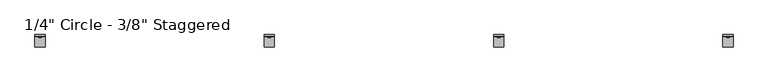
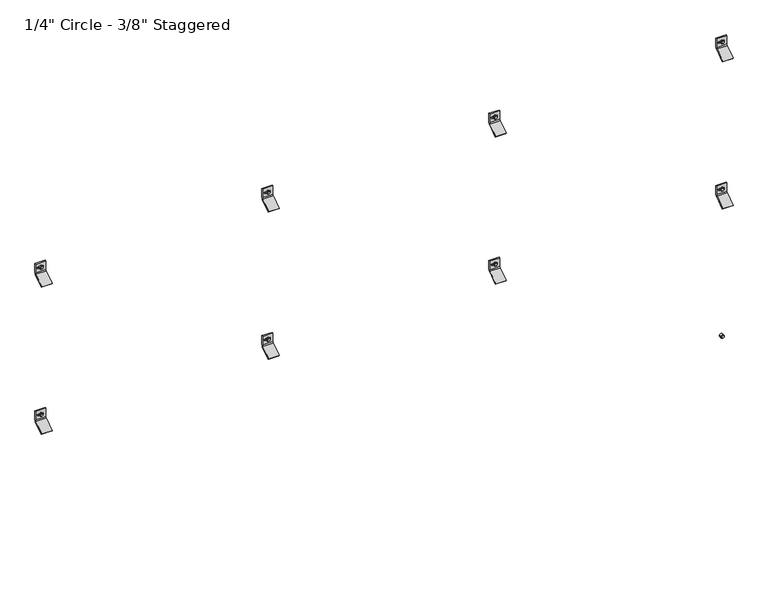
"""IFC4 building model written with IfcOpenShell, lengths in millimetres: plate geometry."""

from ifc_helpers import new_model, si_unit, point, frame, frame_2d, origin, place, context, project, spatial, polyline, circle_curve, trimmed, segment, composite_curve, outline, extrude, source, transform, mapped, element, save
from ifc_brep_helpers import plane_surface, cylinder_surface, revolved_surface, advanced_brep


def plate_326bff25(model_context):
    return source(origin(), model_context, "Body", "SolidModel", [
        extrude(outline(polyline([(1923.7554341, 1273.4858014), (1919.4097216, 1275.9947997), (1919.4097216, 1281.0127963), (1923.7554341, 1283.5217946), (1928.1011466, 1281.0127963), (1928.1011466, 1275.9947997), (1923.7554341, 1273.4858014)])), frame((0.0, -58.7607779, 0.0), z_axis=(0.0, 1.0, 0.0), x_axis=(0.0, 0.0, 1.0)), (0.0, 0.0, 1.0), 11.1357779),
        extrude(outline(composite_curve([segment(trimmed(circle_curve(frame_2d((1923.8487411, 1278.503798)), 6.35), [point((1923.8487411, 1284.853798))], [point((1923.8487411, 1272.153798))], False, "CARTESIAN"), True, "CONTINUOUS"), segment(trimmed(circle_curve(frame_2d((1923.8487411, 1278.503798)), 6.35), [point((1923.8487411, 1272.153798))], [point((1923.8487411, 1284.853798))], False, "CARTESIAN"), True, "CONTINUOUS")], self_intersect=False)), frame((0.0, -57.0817743, 0.0), z_axis=(0.0, 1.0, 0.0), x_axis=(0.0, 0.0, 1.0)), (0.0, 0.0, 1.0), 9.4567743),
        advanced_brep(
        [(1259.453798, -47.625, 1906.606122), (1259.453798, -51.2819443, 1898.9440896), (1259.453798, -89.5163624, 1872.1720618), (1259.453798, -92.9330442, 1875.5887436), (1259.453798, -54.3526876, 1902.6030001), (1259.453798, -52.4002, 1906.6061929), (1259.453798, -52.4002, 1940.7988072), (1259.453798, -47.625, 1940.7988072), (1297.553798, -47.625, 1906.606122), (1297.553798, -47.625, 1940.7988072), (1297.553798, -52.4002, 1940.7988072), (1297.553798, -52.4002, 1906.6061929), (1297.553798, -54.3526876, 1902.6030001), (1297.553798, -92.9330442, 1875.5887436), (1297.553798, -89.5163624, 1872.1720618), (1297.553798, -51.2819443, 1898.9440896), (1285.2449869, -52.4002, 1926.753591), (1285.2449869, -52.4002, 1920.403591), (1269.0171267, -52.4002, 1920.403591), (1269.0171267, -52.4002, 1926.753591), (1285.2449869, -47.625, 1920.403591), (1285.2449869, -47.625, 1926.753591), (1269.0171267, -47.625, 1926.753591), (1269.0171267, -47.625, 1920.403591)],
        [
            (0, 1, circle_curve(frame((1259.453798, -57.4802202, 1906.606122), z_axis=(-1.0, 0.0, 0.0), x_axis=(0.0, -1.0, 0.0)), 9.8552202)),
            (1, 2),
            (2, 3),
            (3, 4),
            (4, 5, circle_curve(frame((1259.453798, -57.4803246, 1906.6061929), z_axis=(1.0, 0.0, 0.0), x_axis=(0.0, -1.0, 0.0)), 5.0801246)),
            (5, 6),
            (6, 7),
            (7, 0),
            (8, 9),
            (9, 10),
            (10, 11),
            (11, 12, circle_curve(frame((1297.553798, -57.4803246, 1906.6061929), z_axis=(-1.0, 0.0, 0.0), x_axis=(0.0, -1.0, 0.0)), 5.0801246)),
            (12, 13),
            (13, 14),
            (14, 15),
            (15, 8, circle_curve(frame((1297.553798, -57.4802202, 1906.606122), z_axis=(1.0, 0.0, 0.0), x_axis=(0.0, -1.0, 0.0)), 9.8552202)),
            (4, 12),
            (11, 5),
            (10, 6),
            (16, 17, circle_curve(frame((1285.2449869, -52.4002, 1923.578591), z_axis=(0.0, 1.0, 0.0), x_axis=(0.0, 0.0, -1.0)), 3.175)),
            (17, 18),
            (18, 19, circle_curve(frame((1269.0171267, -52.4002, 1923.578591), z_axis=(0.0, 1.0, 0.0), x_axis=(0.0, 0.0, -1.0)), 3.175)),
            (19, 16),
            (9, 7),
            (8, 0),
            (20, 21, circle_curve(frame((1285.2449869, -47.625, 1923.578591), z_axis=(0.0, -1.0, 0.0), x_axis=(0.0, 0.0, -1.0)), 3.175)),
            (21, 22),
            (22, 23, circle_curve(frame((1269.0171267, -47.625, 1923.578591), z_axis=(0.0, -1.0, 0.0), x_axis=(0.0, 0.0, -1.0)), 3.175)),
            (23, 20),
            (15, 1),
            (20, 17),
            (16, 21),
            (19, 22),
            (18, 23),
            (14, 2),
            (13, 3),
        ],
        [
            plane_surface(frame((1259.453798, -67.3354404, 1906.606122), z_axis=(-1.0, 0.0, 0.0), x_axis=(0.0, 0.0, 1.0))),
            plane_surface(frame((1297.553798, -67.3354404, 1906.606122), z_axis=(1.0, 0.0, 0.0), x_axis=(0.0, 0.0, -1.0))),
            revolved_surface(polyline([(1297.553798, -62.5604492, 1906.6061929), (1259.453798, -62.5604492, 1906.6061929)]), (1297.553798, -57.4803246, 1906.6061929), (1.0, 0.0, 0.0)),
            plane_surface(frame((1259.453798, -52.4002, 1906.6061929), z_axis=(0.0, -1.0, 0.0), x_axis=(1.0, 0.0, 0.0))),
            plane_surface(frame((1259.453798, -52.4002, 1940.7988072), z_axis=(0.0, 0.0, 1.0), x_axis=(1.0, 0.0, 0.0))),
            plane_surface(frame((1259.453798, -47.625, 1940.7988072), z_axis=(0.0, 1.0, 6.99569853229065e-12), x_axis=(1.0, 0.0, 0.0))),
            cylinder_surface(frame((1297.553798, -57.4802202, 1906.606122), z_axis=(-1.0, 0.0, 0.0), x_axis=(0.0, -1.0, 0.0)), 9.8552202),
            revolved_surface(polyline([(1285.2449869, -52.4002, 1920.403591), (1285.2449869, -47.625, 1920.403591)]), (1285.2449869, -25.6669948, 1923.578591), (0.0, -1.0, 0.0)),
            plane_surface(frame((1285.2449869, -86.677982, 1926.753591), z_axis=(0.0, 0.0, -1.0), x_axis=(0.0, 1.0, 0.0))),
            revolved_surface(polyline([(1269.0171267, -52.4002, 1920.403591), (1269.0171267, -47.625, 1920.403591)]), (1269.0171267, -25.6669948, 1923.578591), (0.0, -1.0, 0.0)),
            plane_surface(frame((1269.0171267, -86.677982, 1920.403591), z_axis=(-2.7237720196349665e-11, 0.0, 1.0), x_axis=(0.0, 1.0, 0.0))),
            plane_surface(frame((1259.453798, -51.2819443, 1898.9440896), z_axis=(0.0, 0.5735764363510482, -0.8191520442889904), x_axis=(1.0, 0.0, 0.0))),
            plane_surface(frame((1259.453798, -89.5163624, 1872.1720618), z_axis=(0.0, -0.7071067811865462, -0.7071067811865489), x_axis=(1.0, 0.0, 0.0))),
            plane_surface(frame((1259.453798, -92.9330442, 1875.5887436), z_axis=(0.0, -0.5735764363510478, 0.8191520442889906), x_axis=(1.0, 0.0, 0.0))),
        ],
        [
            (0, [[1, 2, 3, 4, 5, 6, 7, 8]]),
            (1, [[9, 10, 11, 12, 13, 14, 15, 16]]),
            (2, [[-5, 17, -12, 18]]),
            (3, [[-6, -18, -11, 19], [20, 21, 22, 23]]),
            (4, [[-7, -19, -10, 24]]),
            (5, [[-8, -24, -9, 25], [26, 27, 28, 29]]),
            (6, [[-1, -25, -16, 30]]),
            (7, [[31, -20, 32, -26]]),
            (8, [[-32, -23, 33, -27]]),
            (9, [[-33, -22, 34, -28]]),
            (10, [[-31, -29, -34, -21]]),
            (11, [[-2, -30, -15, 35]]),
            (12, [[-3, -35, -14, 36]]),
            (13, [[-4, -36, -13, -17]]),
        ],
    ),
        extrude(outline(polyline([(1923.7554341, 421.1499361), (1919.4097216, 423.6589344), (1919.4097216, 428.676931), (1923.7554341, 431.1859292), (1928.1011466, 428.676931), (1928.1011466, 423.6589344), (1923.7554341, 421.1499361)])), frame((0.0, -58.7607779, 0.0), z_axis=(0.0, 1.0, 0.0), x_axis=(0.0, 0.0, 1.0)), (0.0, 0.0, 1.0), 11.1357779),
        extrude(outline(composite_curve([segment(trimmed(circle_curve(frame_2d((1923.8487411, 426.1679327)), 6.35), [point((1923.8487411, 432.5179327))], [point((1923.8487411, 419.8179327))], False, "CARTESIAN"), True, "CONTINUOUS"), segment(trimmed(circle_curve(frame_2d((1923.8487411, 426.1679327)), 6.35), [point((1923.8487411, 419.8179327))], [point((1923.8487411, 432.5179327))], False, "CARTESIAN"), True, "CONTINUOUS")], self_intersect=False)), frame((0.0, -57.0817743, 0.0), z_axis=(0.0, 1.0, 0.0), x_axis=(0.0, 0.0, 1.0)), (0.0, 0.0, 1.0), 9.4567743),
        advanced_brep(
        [(407.1179327, -47.625, 1906.606122), (407.1179327, -51.2819443, 1898.9440896), (407.1179327, -89.5163624, 1872.1720618), (407.1179327, -92.9330442, 1875.5887436), (407.1179327, -54.3526876, 1902.6030001), (407.1179327, -52.4002, 1906.6061929), (407.1179327, -52.4002, 1940.7988072), (407.1179327, -47.625, 1940.7988072), (445.2179327, -47.625, 1906.606122), (445.2179327, -47.625, 1940.7988072), (445.2179327, -52.4002, 1940.7988072), (445.2179327, -52.4002, 1906.6061929), (445.2179327, -54.3526876, 1902.6030001), (445.2179327, -92.9330442, 1875.5887436), (445.2179327, -89.5163624, 1872.1720618), (445.2179327, -51.2819443, 1898.9440896), (432.9091216, -52.4002, 1926.753591), (432.9091216, -52.4002, 1920.403591), (416.6812614, -52.4002, 1920.403591), (416.6812614, -52.4002, 1926.753591), (432.9091216, -47.625, 1920.403591), (432.9091216, -47.625, 1926.753591), (416.6812614, -47.625, 1926.753591), (416.6812614, -47.625, 1920.403591)],
        [
            (0, 1, circle_curve(frame((407.1179327, -57.4802202, 1906.606122), z_axis=(-1.0, 0.0, 0.0), x_axis=(0.0, -1.0, 0.0)), 9.8552202)),
            (1, 2),
            (2, 3),
            (3, 4),
            (4, 5, circle_curve(frame((407.1179327, -57.4803246, 1906.6061929), z_axis=(1.0, 0.0, 0.0), x_axis=(0.0, -1.0, 0.0)), 5.0801246)),
            (5, 6),
            (6, 7),
            (7, 0),
            (8, 9),
            (9, 10),
            (10, 11),
            (11, 12, circle_curve(frame((445.2179327, -57.4803246, 1906.6061929), z_axis=(-1.0, 0.0, 0.0), x_axis=(0.0, -1.0, 0.0)), 5.0801246)),
            (12, 13),
            (13, 14),
            (14, 15),
            (15, 8, circle_curve(frame((445.2179327, -57.4802202, 1906.606122), z_axis=(1.0, 0.0, 0.0), x_axis=(0.0, -1.0, 0.0)), 9.8552202)),
            (4, 12),
            (11, 5),
            (10, 6),
            (16, 17, circle_curve(frame((432.9091216, -52.4002, 1923.578591), z_axis=(0.0, 1.0, 0.0), x_axis=(0.0, 0.0, -1.0)), 3.175)),
            (17, 18),
            (18, 19, circle_curve(frame((416.6812614, -52.4002, 1923.578591), z_axis=(0.0, 1.0, 0.0), x_axis=(0.0, 0.0, -1.0)), 3.175)),
            (19, 16),
            (9, 7),
            (8, 0),
            (20, 21, circle_curve(frame((432.9091216, -47.625, 1923.578591), z_axis=(0.0, -1.0, 0.0), x_axis=(0.0, 0.0, -1.0)), 3.175)),
            (21, 22),
            (22, 23, circle_curve(frame((416.6812614, -47.625, 1923.578591), z_axis=(0.0, -1.0, 0.0), x_axis=(0.0, 0.0, -1.0)), 3.175)),
            (23, 20),
            (15, 1),
            (20, 17),
            (16, 21),
            (19, 22),
            (18, 23),
            (14, 2),
            (13, 3),
        ],
        [
            plane_surface(frame((407.1179327, -67.3354404, 1906.606122), z_axis=(-1.0, 0.0, 0.0), x_axis=(0.0, 0.0, 1.0))),
            plane_surface(frame((445.2179327, -67.3354404, 1906.606122), z_axis=(1.0, 0.0, 0.0), x_axis=(0.0, 0.0, -1.0))),
            revolved_surface(polyline([(445.2179327, -62.5604492, 1906.6061929), (407.1179327, -62.5604492, 1906.6061929)]), (445.2179327, -57.4803246, 1906.6061929), (1.0, 0.0, 0.0)),
            plane_surface(frame((407.1179327, -52.4002, 1906.6061929), z_axis=(0.0, -1.0, 0.0), x_axis=(1.0, 0.0, 0.0))),
            plane_surface(frame((407.1179327, -52.4002, 1940.7988072), z_axis=(0.0, 0.0, 1.0), x_axis=(1.0, 0.0, 0.0))),
            plane_surface(frame((407.1179327, -47.625, 1940.7988072), z_axis=(0.0, 1.0, 6.99569853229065e-12), x_axis=(1.0, 0.0, 0.0))),
            cylinder_surface(frame((445.2179327, -57.4802202, 1906.606122), z_axis=(-1.0, 0.0, 0.0), x_axis=(0.0, -1.0, 0.0)), 9.8552202),
            revolved_surface(polyline([(432.9091216, -52.4002, 1920.403591), (432.9091216, -47.625, 1920.403591)]), (432.9091216, -25.6669948, 1923.578591), (0.0, -1.0, 0.0)),
            plane_surface(frame((432.9091216, -86.677982, 1926.753591), z_axis=(0.0, 0.0, -1.0), x_axis=(0.0, 1.0, 0.0))),
            revolved_surface(polyline([(416.6812614, -52.4002, 1920.403591), (416.6812614, -47.625, 1920.403591)]), (416.6812614, -25.6669948, 1923.578591), (0.0, -1.0, 0.0)),
            plane_surface(frame((416.6812614, -86.677982, 1920.403591), z_axis=(-2.7237720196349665e-11, 0.0, 1.0), x_axis=(0.0, 1.0, 0.0))),
            plane_surface(frame((407.1179327, -51.2819443, 1898.9440896), z_axis=(0.0, 0.5735764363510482, -0.8191520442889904), x_axis=(1.0, 0.0, 0.0))),
            plane_surface(frame((407.1179327, -89.5163624, 1872.1720618), z_axis=(0.0, -0.7071067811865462, -0.7071067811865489), x_axis=(1.0, 0.0, 0.0))),
            plane_surface(frame((407.1179327, -92.9330442, 1875.5887436), z_axis=(0.0, -0.5735764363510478, 0.8191520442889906), x_axis=(1.0, 0.0, 0.0))),
        ],
        [
            (0, [[1, 2, 3, 4, 5, 6, 7, 8]]),
            (1, [[9, 10, 11, 12, 13, 14, 15, 16]]),
            (2, [[-5, 17, -12, 18]]),
            (3, [[-6, -18, -11, 19], [20, 21, 22, 23]]),
            (4, [[-7, -19, -10, 24]]),
            (5, [[-8, -24, -9, 25], [26, 27, 28, 29]]),
            (6, [[-1, -25, -16, 30]]),
            (7, [[31, -20, 32, -26]]),
            (8, [[-32, -23, 33, -27]]),
            (9, [[-33, -22, 34, -28]]),
            (10, [[-31, -29, -34, -21]]),
            (11, [[-2, -30, -15, 35]]),
            (12, [[-3, -35, -14, 36]]),
            (13, [[-4, -36, -13, -17]]),
        ],
    ),
        extrude(outline(polyline([(1923.7554341, -431.1859292), (1919.4097216, -428.676931), (1919.4097216, -423.6589344), (1923.7554341, -421.1499361), (1928.1011466, -423.6589344), (1928.1011466, -428.676931), (1923.7554341, -431.1859292)])), frame((0.0, -58.7607779, 0.0), z_axis=(0.0, 1.0, 0.0), x_axis=(0.0, 0.0, 1.0)), (0.0, 0.0, 1.0), 11.1357779),
        extrude(outline(composite_curve([segment(trimmed(circle_curve(frame_2d((1923.8487411, -426.1679327)), 6.35), [point((1923.8487411, -419.8179327))], [point((1923.8487411, -432.5179327))], False, "CARTESIAN"), True, "CONTINUOUS"), segment(trimmed(circle_curve(frame_2d((1923.8487411, -426.1679327)), 6.35), [point((1923.8487411, -432.5179327))], [point((1923.8487411, -419.8179327))], False, "CARTESIAN"), True, "CONTINUOUS")], self_intersect=False)), frame((0.0, -57.0817743, 0.0), z_axis=(0.0, 1.0, 0.0), x_axis=(0.0, 0.0, 1.0)), (0.0, 0.0, 1.0), 9.4567743),
        advanced_brep(
        [(-445.2179327, -47.625, 1906.606122), (-445.2179327, -51.2819443, 1898.9440896), (-445.2179327, -89.5163624, 1872.1720618), (-445.2179327, -92.9330442, 1875.5887436), (-445.2179327, -54.3526876, 1902.6030001), (-445.2179327, -52.4002, 1906.6061929), (-445.2179327, -52.4002, 1940.7988072), (-445.2179327, -47.625, 1940.7988072), (-407.1179327, -47.625, 1906.606122), (-407.1179327, -47.625, 1940.7988072), (-407.1179327, -52.4002, 1940.7988072), (-407.1179327, -52.4002, 1906.6061929), (-407.1179327, -54.3526876, 1902.6030001), (-407.1179327, -92.9330442, 1875.5887436), (-407.1179327, -89.5163624, 1872.1720618), (-407.1179327, -51.2819443, 1898.9440896), (-419.4267438, -52.4002, 1926.753591), (-419.4267438, -52.4002, 1920.403591), (-435.654604, -52.4002, 1920.403591), (-435.654604, -52.4002, 1926.753591), (-419.4267438, -47.625, 1920.403591), (-419.4267438, -47.625, 1926.753591), (-435.654604, -47.625, 1926.753591), (-435.654604, -47.625, 1920.403591)],
        [
            (0, 1, circle_curve(frame((-445.2179327, -57.4802202, 1906.606122), z_axis=(-1.0, 0.0, 0.0), x_axis=(0.0, -1.0, 0.0)), 9.8552202)),
            (1, 2),
            (2, 3),
            (3, 4),
            (4, 5, circle_curve(frame((-445.2179327, -57.4803246, 1906.6061929), z_axis=(1.0, 0.0, 0.0), x_axis=(0.0, -1.0, 0.0)), 5.0801246)),
            (5, 6),
            (6, 7),
            (7, 0),
            (8, 9),
            (9, 10),
            (10, 11),
            (11, 12, circle_curve(frame((-407.1179327, -57.4803246, 1906.6061929), z_axis=(-1.0, 0.0, 0.0), x_axis=(0.0, -1.0, 0.0)), 5.0801246)),
            (12, 13),
            (13, 14),
            (14, 15),
            (15, 8, circle_curve(frame((-407.1179327, -57.4802202, 1906.606122), z_axis=(1.0, 0.0, 0.0), x_axis=(0.0, -1.0, 0.0)), 9.8552202)),
            (4, 12),
            (11, 5),
            (10, 6),
            (16, 17, circle_curve(frame((-419.4267438, -52.4002, 1923.578591), z_axis=(0.0, 1.0, 0.0), x_axis=(0.0, 0.0, -1.0)), 3.175)),
            (17, 18),
            (18, 19, circle_curve(frame((-435.654604, -52.4002, 1923.578591), z_axis=(0.0, 1.0, 0.0), x_axis=(0.0, 0.0, -1.0)), 3.175)),
            (19, 16),
            (9, 7),
            (8, 0),
            (20, 21, circle_curve(frame((-419.4267438, -47.625, 1923.578591), z_axis=(0.0, -1.0, 0.0), x_axis=(0.0, 0.0, -1.0)), 3.175)),
            (21, 22),
            (22, 23, circle_curve(frame((-435.654604, -47.625, 1923.578591), z_axis=(0.0, -1.0, 0.0), x_axis=(0.0, 0.0, -1.0)), 3.175)),
            (23, 20),
            (15, 1),
            (20, 17),
            (16, 21),
            (19, 22),
            (18, 23),
            (14, 2),
            (13, 3),
        ],
        [
            plane_surface(frame((-445.2179327, -67.3354404, 1906.606122), z_axis=(-1.0, 0.0, 0.0), x_axis=(0.0, 0.0, 1.0))),
            plane_surface(frame((-407.1179327, -67.3354404, 1906.606122), z_axis=(1.0, 0.0, 0.0), x_axis=(0.0, 0.0, -1.0))),
            revolved_surface(polyline([(-407.1179327, -62.5604492, 1906.6061929), (-445.2179327, -62.5604492, 1906.6061929)]), (-407.1179327, -57.4803246, 1906.6061929), (1.0, 0.0, 0.0)),
            plane_surface(frame((-445.2179327, -52.4002, 1906.6061929), z_axis=(0.0, -1.0, 0.0), x_axis=(1.0, 0.0, 0.0))),
            plane_surface(frame((-445.2179327, -52.4002, 1940.7988072), z_axis=(0.0, 0.0, 1.0), x_axis=(1.0, 0.0, 0.0))),
            plane_surface(frame((-445.2179327, -47.625, 1940.7988072), z_axis=(0.0, 1.0, 6.99569853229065e-12), x_axis=(1.0, 0.0, 0.0))),
            cylinder_surface(frame((-407.1179327, -57.4802202, 1906.606122), z_axis=(-1.0, 0.0, 0.0), x_axis=(0.0, -1.0, 0.0)), 9.8552202),
            revolved_surface(polyline([(-419.4267438, -52.4002, 1920.403591), (-419.4267438, -47.625, 1920.403591)]), (-419.4267438, -25.6669948, 1923.578591), (0.0, -1.0, 0.0)),
            plane_surface(frame((-419.4267438, -86.677982, 1926.753591), z_axis=(0.0, 0.0, -1.0), x_axis=(0.0, 1.0, 0.0))),
            revolved_surface(polyline([(-435.654604, -52.4002, 1920.403591), (-435.654604, -47.625, 1920.403591)]), (-435.654604, -25.6669948, 1923.578591), (0.0, -1.0, 0.0)),
            plane_surface(frame((-435.654604, -86.677982, 1920.403591), z_axis=(-2.7237720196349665e-11, 0.0, 1.0), x_axis=(0.0, 1.0, 0.0))),
            plane_surface(frame((-445.2179327, -51.2819443, 1898.9440896), z_axis=(0.0, 0.5735764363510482, -0.8191520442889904), x_axis=(1.0, 0.0, 0.0))),
            plane_surface(frame((-445.2179327, -89.5163624, 1872.1720618), z_axis=(0.0, -0.7071067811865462, -0.7071067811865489), x_axis=(1.0, 0.0, 0.0))),
            plane_surface(frame((-445.2179327, -92.9330442, 1875.5887436), z_axis=(0.0, -0.5735764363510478, 0.8191520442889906), x_axis=(1.0, 0.0, 0.0))),
        ],
        [
            (0, [[1, 2, 3, 4, 5, 6, 7, 8]]),
            (1, [[9, 10, 11, 12, 13, 14, 15, 16]]),
            (2, [[-5, 17, -12, 18]]),
            (3, [[-6, -18, -11, 19], [20, 21, 22, 23]]),
            (4, [[-7, -19, -10, 24]]),
            (5, [[-8, -24, -9, 25], [26, 27, 28, 29]]),
            (6, [[-1, -25, -16, 30]]),
            (7, [[31, -20, 32, -26]]),
            (8, [[-32, -23, 33, -27]]),
            (9, [[-33, -22, 34, -28]]),
            (10, [[-31, -29, -34, -21]]),
            (11, [[-2, -30, -15, 35]]),
            (12, [[-3, -35, -14, 36]]),
            (13, [[-4, -36, -13, -17]]),
        ],
    ),
        extrude(outline(polyline([(1923.7554341, -1283.5217946), (1919.4097216, -1281.0127963), (1919.4097216, -1275.9947997), (1923.7554341, -1273.4858014), (1928.1011466, -1275.9947997), (1928.1011466, -1281.0127963), (1923.7554341, -1283.5217946)])), frame((0.0, -58.7607779, 0.0), z_axis=(0.0, 1.0, 0.0), x_axis=(0.0, 0.0, 1.0)), (0.0, 0.0, 1.0), 11.1357779),
        extrude(outline(composite_curve([segment(trimmed(circle_curve(frame_2d((1923.8487411, -1278.503798)), 6.35), [point((1923.8487411, -1272.153798))], [point((1923.8487411, -1284.853798))], False, "CARTESIAN"), True, "CONTINUOUS"), segment(trimmed(circle_curve(frame_2d((1923.8487411, -1278.503798)), 6.35), [point((1923.8487411, -1284.853798))], [point((1923.8487411, -1272.153798))], False, "CARTESIAN"), True, "CONTINUOUS")], self_intersect=False)), frame((0.0, -57.0817743, 0.0), z_axis=(0.0, 1.0, 0.0), x_axis=(0.0, 0.0, 1.0)), (0.0, 0.0, 1.0), 9.4567743),
        advanced_brep(
        [(-1297.553798, -47.625, 1906.606122), (-1297.553798, -51.2819443, 1898.9440896), (-1297.553798, -89.5163624, 1872.1720618), (-1297.553798, -92.9330442, 1875.5887436), (-1297.553798, -54.3526876, 1902.6030001), (-1297.553798, -52.4002, 1906.6061929), (-1297.553798, -52.4002, 1940.7988072), (-1297.553798, -47.625, 1940.7988072), (-1259.453798, -47.625, 1906.606122), (-1259.453798, -47.625, 1940.7988072), (-1259.453798, -52.4002, 1940.7988072), (-1259.453798, -52.4002, 1906.6061929), (-1259.453798, -54.3526876, 1902.6030001), (-1259.453798, -92.9330442, 1875.5887436), (-1259.453798, -89.5163624, 1872.1720618), (-1259.453798, -51.2819443, 1898.9440896), (-1271.7626091, -52.4002, 1926.753591), (-1271.7626091, -52.4002, 1920.403591), (-1287.9904693, -52.4002, 1920.403591), (-1287.9904693, -52.4002, 1926.753591), (-1271.7626091, -47.625, 1920.403591), (-1271.7626091, -47.625, 1926.753591), (-1287.9904693, -47.625, 1926.753591), (-1287.9904693, -47.625, 1920.403591)],
        [
            (0, 1, circle_curve(frame((-1297.553798, -57.4802202, 1906.606122), z_axis=(-1.0, 0.0, 0.0), x_axis=(0.0, -1.0, 0.0)), 9.8552202)),
            (1, 2),
            (2, 3),
            (3, 4),
            (4, 5, circle_curve(frame((-1297.553798, -57.4803246, 1906.6061929), z_axis=(1.0, 0.0, 0.0), x_axis=(0.0, -1.0, 0.0)), 5.0801246)),
            (5, 6),
            (6, 7),
            (7, 0),
            (8, 9),
            (9, 10),
            (10, 11),
            (11, 12, circle_curve(frame((-1259.453798, -57.4803246, 1906.6061929), z_axis=(-1.0, 0.0, 0.0), x_axis=(0.0, -1.0, 0.0)), 5.0801246)),
            (12, 13),
            (13, 14),
            (14, 15),
            (15, 8, circle_curve(frame((-1259.453798, -57.4802202, 1906.606122), z_axis=(1.0, 0.0, 0.0), x_axis=(0.0, -1.0, 0.0)), 9.8552202)),
            (4, 12),
            (11, 5),
            (10, 6),
            (16, 17, circle_curve(frame((-1271.7626091, -52.4002, 1923.578591), z_axis=(0.0, 1.0, 0.0), x_axis=(0.0, 0.0, -1.0)), 3.175)),
            (17, 18),
            (18, 19, circle_curve(frame((-1287.9904693, -52.4002, 1923.578591), z_axis=(0.0, 1.0, 0.0), x_axis=(0.0, 0.0, -1.0)), 3.175)),
            (19, 16),
            (9, 7),
            (8, 0),
            (20, 21, circle_curve(frame((-1271.7626091, -47.625, 1923.578591), z_axis=(0.0, -1.0, 0.0), x_axis=(0.0, 0.0, -1.0)), 3.175)),
            (21, 22),
            (22, 23, circle_curve(frame((-1287.9904693, -47.625, 1923.578591), z_axis=(0.0, -1.0, 0.0), x_axis=(0.0, 0.0, -1.0)), 3.175)),
            (23, 20),
            (15, 1),
            (20, 17),
            (16, 21),
            (19, 22),
            (18, 23),
            (14, 2),
            (13, 3),
        ],
        [
            plane_surface(frame((-1297.553798, -67.3354404, 1906.606122), z_axis=(-1.0, 0.0, 0.0), x_axis=(0.0, 0.0, 1.0))),
            plane_surface(frame((-1259.453798, -67.3354404, 1906.606122), z_axis=(1.0, 0.0, 0.0), x_axis=(0.0, 0.0, -1.0))),
            revolved_surface(polyline([(-1259.453798, -62.5604492, 1906.6061929), (-1297.553798, -62.5604492, 1906.6061929)]), (-1259.453798, -57.4803246, 1906.6061929), (1.0, 0.0, 0.0)),
            plane_surface(frame((-1297.553798, -52.4002, 1906.6061929), z_axis=(0.0, -1.0, 0.0), x_axis=(1.0, 0.0, 0.0))),
            plane_surface(frame((-1297.553798, -52.4002, 1940.7988072), z_axis=(0.0, 0.0, 1.0), x_axis=(1.0, 0.0, 0.0))),
            plane_surface(frame((-1297.553798, -47.625, 1940.7988072), z_axis=(0.0, 1.0, 6.99569853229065e-12), x_axis=(1.0, 0.0, 0.0))),
            cylinder_surface(frame((-1259.453798, -57.4802202, 1906.606122), z_axis=(-1.0, 0.0, 0.0), x_axis=(0.0, -1.0, 0.0)), 9.8552202),
            revolved_surface(polyline([(-1271.7626091, -52.4002, 1920.403591), (-1271.7626091, -47.625, 1920.403591)]), (-1271.7626091, -25.6669948, 1923.578591), (0.0, -1.0, 0.0)),
            plane_surface(frame((-1271.7626091, -86.677982, 1926.753591), z_axis=(0.0, 0.0, -1.0), x_axis=(0.0, 1.0, 0.0))),
            revolved_surface(polyline([(-1287.9904693, -52.4002, 1920.403591), (-1287.9904693, -47.625, 1920.403591)]), (-1287.9904693, -25.6669948, 1923.578591), (0.0, -1.0, 0.0)),
            plane_surface(frame((-1287.9904693, -86.677982, 1920.403591), z_axis=(-2.7237720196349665e-11, 0.0, 1.0), x_axis=(0.0, 1.0, 0.0))),
            plane_surface(frame((-1297.553798, -51.2819443, 1898.9440896), z_axis=(0.0, 0.5735764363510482, -0.8191520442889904), x_axis=(1.0, 0.0, 0.0))),
            plane_surface(frame((-1297.553798, -89.5163624, 1872.1720618), z_axis=(0.0, -0.7071067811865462, -0.7071067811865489), x_axis=(1.0, 0.0, 0.0))),
            plane_surface(frame((-1297.553798, -92.9330442, 1875.5887436), z_axis=(0.0, -0.5735764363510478, 0.8191520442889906), x_axis=(1.0, 0.0, 0.0))),
        ],
        [
            (0, [[1, 2, 3, 4, 5, 6, 7, 8]]),
            (1, [[9, 10, 11, 12, 13, 14, 15, 16]]),
            (2, [[-5, 17, -12, 18]]),
            (3, [[-6, -18, -11, 19], [20, 21, 22, 23]]),
            (4, [[-7, -19, -10, 24]]),
            (5, [[-8, -24, -9, 25], [26, 27, 28, 29]]),
            (6, [[-1, -25, -16, 30]]),
            (7, [[31, -20, 32, -26]]),
            (8, [[-32, -23, 33, -27]]),
            (9, [[-33, -22, 34, -28]]),
            (10, [[-31, -29, -34, -21]]),
            (11, [[-2, -30, -15, 35]]),
            (12, [[-3, -35, -14, 36]]),
            (13, [[-4, -36, -13, -17]]),
        ],
    ),
        extrude(outline(polyline([(1339.1301335, 1273.4858014), (1334.784421, 1275.9947997), (1334.784421, 1281.0127963), (1339.1301335, 1283.5217946), (1343.475846, 1281.0127963), (1343.475846, 1275.9947997), (1339.1301335, 1273.4858014)])), frame((0.0, -58.7607779, 0.0), z_axis=(0.0, 1.0, 0.0), x_axis=(0.0, 0.0, 1.0)), (0.0, 0.0, 1.0), 11.1357779),
        extrude(outline(composite_curve([segment(trimmed(circle_curve(frame_2d((1339.2234405, 1278.503798)), 6.35), [point((1339.2234405, 1284.853798))], [point((1339.2234405, 1272.153798))], False, "CARTESIAN"), True, "CONTINUOUS"), segment(trimmed(circle_curve(frame_2d((1339.2234405, 1278.503798)), 6.35), [point((1339.2234405, 1272.153798))], [point((1339.2234405, 1284.853798))], False, "CARTESIAN"), True, "CONTINUOUS")], self_intersect=False)), frame((0.0, -57.0817743, 0.0), z_axis=(0.0, 1.0, 0.0), x_axis=(0.0, 0.0, 1.0)), (0.0, 0.0, 1.0), 9.4567743),
        advanced_brep(
        [(1259.453798, -47.625, 1321.9808214), (1259.453798, -51.2819443, 1314.318789), (1259.453798, -89.5163624, 1287.5467612), (1259.453798, -92.9330442, 1290.963443), (1259.453798, -54.3526876, 1317.9776995), (1259.453798, -52.4002, 1321.9808923), (1259.453798, -52.4002, 1356.1735066), (1259.453798, -47.625, 1356.1735066), (1297.553798, -47.625, 1321.9808214), (1297.553798, -47.625, 1356.1735066), (1297.553798, -52.4002, 1356.1735066), (1297.553798, -52.4002, 1321.9808923), (1297.553798, -54.3526876, 1317.9776995), (1297.553798, -92.9330442, 1290.963443), (1297.553798, -89.5163624, 1287.5467612), (1297.553798, -51.2819443, 1314.318789), (1285.2449869, -52.4002, 1342.1282903), (1285.2449869, -52.4002, 1335.7782903), (1269.0171267, -52.4002, 1335.7782903), (1269.0171267, -52.4002, 1342.1282903), (1285.2449869, -47.625, 1335.7782903), (1285.2449869, -47.625, 1342.1282903), (1269.0171267, -47.625, 1342.1282903), (1269.0171267, -47.625, 1335.7782903)],
        [
            (0, 1, circle_curve(frame((1259.453798, -57.4802202, 1321.9808214), z_axis=(-1.0, 0.0, 0.0), x_axis=(0.0, -1.0, 0.0)), 9.8552202)),
            (1, 2),
            (2, 3),
            (3, 4),
            (4, 5, circle_curve(frame((1259.453798, -57.4803246, 1321.9808923), z_axis=(1.0, 0.0, 0.0), x_axis=(0.0, -1.0, 0.0)), 5.0801246)),
            (5, 6),
            (6, 7),
            (7, 0),
            (8, 9),
            (9, 10),
            (10, 11),
            (11, 12, circle_curve(frame((1297.553798, -57.4803246, 1321.9808923), z_axis=(-1.0, 0.0, 0.0), x_axis=(0.0, -1.0, 0.0)), 5.0801246)),
            (12, 13),
            (13, 14),
            (14, 15),
            (15, 8, circle_curve(frame((1297.553798, -57.4802202, 1321.9808214), z_axis=(1.0, 0.0, 0.0), x_axis=(0.0, -1.0, 0.0)), 9.8552202)),
            (4, 12),
            (11, 5),
            (10, 6),
            (16, 17, circle_curve(frame((1285.2449869, -52.4002, 1338.9532903), z_axis=(0.0, 1.0, 0.0), x_axis=(0.0, 0.0, -1.0)), 3.175)),
            (17, 18),
            (18, 19, circle_curve(frame((1269.0171267, -52.4002, 1338.9532903), z_axis=(0.0, 1.0, 0.0), x_axis=(0.0, 0.0, -1.0)), 3.175)),
            (19, 16),
            (9, 7),
            (8, 0),
            (20, 21, circle_curve(frame((1285.2449869, -47.625, 1338.9532903), z_axis=(0.0, -1.0, 0.0), x_axis=(0.0, 0.0, -1.0)), 3.175)),
            (21, 22),
            (22, 23, circle_curve(frame((1269.0171267, -47.625, 1338.9532903), z_axis=(0.0, -1.0, 0.0), x_axis=(0.0, 0.0, -1.0)), 3.175)),
            (23, 20),
            (15, 1),
            (20, 17),
            (16, 21),
            (19, 22),
            (18, 23),
            (14, 2),
            (13, 3),
        ],
        [
            plane_surface(frame((1259.453798, -67.3354404, 1321.9808214), z_axis=(-1.0, 0.0, 0.0), x_axis=(0.0, 0.0, 1.0))),
            plane_surface(frame((1297.553798, -67.3354404, 1321.9808214), z_axis=(1.0, 0.0, 0.0), x_axis=(0.0, 0.0, -1.0))),
            revolved_surface(polyline([(1297.553798, -62.5604492, 1321.9808923), (1259.453798, -62.5604492, 1321.9808923)]), (1297.553798, -57.4803246, 1321.9808923), (1.0, 0.0, 0.0)),
            plane_surface(frame((1259.453798, -52.4002, 1321.9808923), z_axis=(0.0, -1.0, 0.0), x_axis=(1.0, 0.0, 0.0))),
            plane_surface(frame((1259.453798, -52.4002, 1356.1735066), z_axis=(0.0, 0.0, 1.0), x_axis=(1.0, 0.0, 0.0))),
            plane_surface(frame((1259.453798, -47.625, 1356.1735066), z_axis=(0.0, 1.0, 6.99569853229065e-12), x_axis=(1.0, 0.0, 0.0))),
            cylinder_surface(frame((1297.553798, -57.4802202, 1321.9808214), z_axis=(-1.0, 0.0, 0.0), x_axis=(0.0, -1.0, 0.0)), 9.8552202),
            revolved_surface(polyline([(1285.2449869, -52.4002, 1335.7782903), (1285.2449869, -47.625, 1335.7782903)]), (1285.2449869, -25.6669948, 1338.9532903), (0.0, -1.0, 0.0)),
            plane_surface(frame((1285.2449869, -86.677982, 1342.1282903), z_axis=(0.0, 0.0, -1.0), x_axis=(0.0, 1.0, 0.0))),
            revolved_surface(polyline([(1269.0171267, -52.4002, 1335.7782903), (1269.0171267, -47.625, 1335.7782903)]), (1269.0171267, -25.6669948, 1338.9532903), (0.0, -1.0, 0.0)),
            plane_surface(frame((1269.0171267, -86.677982, 1335.7782903), z_axis=(-2.7237766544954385e-11, 0.0, 1.0), x_axis=(0.0, 1.0, 0.0))),
            plane_surface(frame((1259.453798, -51.2819443, 1314.318789), z_axis=(0.0, 0.5735764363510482, -0.8191520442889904), x_axis=(1.0, 0.0, 0.0))),
            plane_surface(frame((1259.453798, -89.5163624, 1287.5467612), z_axis=(0.0, -0.7071067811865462, -0.7071067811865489), x_axis=(1.0, 0.0, 0.0))),
            plane_surface(frame((1259.453798, -92.9330442, 1290.963443), z_axis=(0.0, -0.5735764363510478, 0.8191520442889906), x_axis=(1.0, 0.0, 0.0))),
        ],
        [
            (0, [[1, 2, 3, 4, 5, 6, 7, 8]]),
            (1, [[9, 10, 11, 12, 13, 14, 15, 16]]),
            (2, [[-5, 17, -12, 18]]),
            (3, [[-6, -18, -11, 19], [20, 21, 22, 23]]),
            (4, [[-7, -19, -10, 24]]),
            (5, [[-8, -24, -9, 25], [26, 27, 28, 29]]),
            (6, [[-1, -25, -16, 30]]),
            (7, [[31, -20, 32, -26]]),
            (8, [[-32, -23, 33, -27]]),
            (9, [[-33, -22, 34, -28]]),
            (10, [[-31, -29, -34, -21]]),
            (11, [[-2, -30, -15, 35]]),
            (12, [[-3, -35, -14, 36]]),
            (13, [[-4, -36, -13, -17]]),
        ],
    ),
        extrude(outline(polyline([(1339.1301335, 421.1499361), (1334.784421, 423.6589344), (1334.784421, 428.676931), (1339.1301335, 431.1859292), (1343.475846, 428.676931), (1343.475846, 423.6589344), (1339.1301335, 421.1499361)])), frame((0.0, -58.7607779, 0.0), z_axis=(0.0, 1.0, 0.0), x_axis=(0.0, 0.0, 1.0)), (0.0, 0.0, 1.0), 11.1357779),
        extrude(outline(composite_curve([segment(trimmed(circle_curve(frame_2d((1339.2234405, 426.1679327)), 6.35), [point((1339.2234405, 432.5179327))], [point((1339.2234405, 419.8179327))], False, "CARTESIAN"), True, "CONTINUOUS"), segment(trimmed(circle_curve(frame_2d((1339.2234405, 426.1679327)), 6.35), [point((1339.2234405, 419.8179327))], [point((1339.2234405, 432.5179327))], False, "CARTESIAN"), True, "CONTINUOUS")], self_intersect=False)), frame((0.0, -57.0817743, 0.0), z_axis=(0.0, 1.0, 0.0), x_axis=(0.0, 0.0, 1.0)), (0.0, 0.0, 1.0), 9.4567743),
        advanced_brep(
        [(407.1179327, -47.625, 1321.9808214), (407.1179327, -51.2819443, 1314.318789), (407.1179327, -89.5163624, 1287.5467612), (407.1179327, -92.9330442, 1290.963443), (407.1179327, -54.3526876, 1317.9776995), (407.1179327, -52.4002, 1321.9808923), (407.1179327, -52.4002, 1356.1735066), (407.1179327, -47.625, 1356.1735066), (445.2179327, -47.625, 1321.9808214), (445.2179327, -47.625, 1356.1735066), (445.2179327, -52.4002, 1356.1735066), (445.2179327, -52.4002, 1321.9808923), (445.2179327, -54.3526876, 1317.9776995), (445.2179327, -92.9330442, 1290.963443), (445.2179327, -89.5163624, 1287.5467612), (445.2179327, -51.2819443, 1314.318789), (432.9091216, -52.4002, 1342.1282903), (432.9091216, -52.4002, 1335.7782903), (416.6812614, -52.4002, 1335.7782903), (416.6812614, -52.4002, 1342.1282903), (432.9091216, -47.625, 1335.7782903), (432.9091216, -47.625, 1342.1282903), (416.6812614, -47.625, 1342.1282903), (416.6812614, -47.625, 1335.7782903)],
        [
            (0, 1, circle_curve(frame((407.1179327, -57.4802202, 1321.9808214), z_axis=(-1.0, 0.0, 0.0), x_axis=(0.0, -1.0, 0.0)), 9.8552202)),
            (1, 2),
            (2, 3),
            (3, 4),
            (4, 5, circle_curve(frame((407.1179327, -57.4803246, 1321.9808923), z_axis=(1.0, 0.0, 0.0), x_axis=(0.0, -1.0, 0.0)), 5.0801246)),
            (5, 6),
            (6, 7),
            (7, 0),
            (8, 9),
            (9, 10),
            (10, 11),
            (11, 12, circle_curve(frame((445.2179327, -57.4803246, 1321.9808923), z_axis=(-1.0, 0.0, 0.0), x_axis=(0.0, -1.0, 0.0)), 5.0801246)),
            (12, 13),
            (13, 14),
            (14, 15),
            (15, 8, circle_curve(frame((445.2179327, -57.4802202, 1321.9808214), z_axis=(1.0, 0.0, 0.0), x_axis=(0.0, -1.0, 0.0)), 9.8552202)),
            (4, 12),
            (11, 5),
            (10, 6),
            (16, 17, circle_curve(frame((432.9091216, -52.4002, 1338.9532903), z_axis=(0.0, 1.0, 0.0), x_axis=(0.0, 0.0, -1.0)), 3.175)),
            (17, 18),
            (18, 19, circle_curve(frame((416.6812614, -52.4002, 1338.9532903), z_axis=(0.0, 1.0, 0.0), x_axis=(0.0, 0.0, -1.0)), 3.175)),
            (19, 16),
            (9, 7),
            (8, 0),
            (20, 21, circle_curve(frame((432.9091216, -47.625, 1338.9532903), z_axis=(0.0, -1.0, 0.0), x_axis=(0.0, 0.0, -1.0)), 3.175)),
            (21, 22),
            (22, 23, circle_curve(frame((416.6812614, -47.625, 1338.9532903), z_axis=(0.0, -1.0, 0.0), x_axis=(0.0, 0.0, -1.0)), 3.175)),
            (23, 20),
            (15, 1),
            (20, 17),
            (16, 21),
            (19, 22),
            (18, 23),
            (14, 2),
            (13, 3),
        ],
        [
            plane_surface(frame((407.1179327, -67.3354404, 1321.9808214), z_axis=(-1.0, 0.0, 0.0), x_axis=(0.0, 0.0, 1.0))),
            plane_surface(frame((445.2179327, -67.3354404, 1321.9808214), z_axis=(1.0, 0.0, 0.0), x_axis=(0.0, 0.0, -1.0))),
            revolved_surface(polyline([(445.2179327, -62.5604492, 1321.9808923), (407.1179327, -62.5604492, 1321.9808923)]), (445.2179327, -57.4803246, 1321.9808923), (1.0, 0.0, 0.0)),
            plane_surface(frame((407.1179327, -52.4002, 1321.9808923), z_axis=(0.0, -1.0, 0.0), x_axis=(1.0, 0.0, 0.0))),
            plane_surface(frame((407.1179327, -52.4002, 1356.1735066), z_axis=(0.0, 0.0, 1.0), x_axis=(1.0, 0.0, 0.0))),
            plane_surface(frame((407.1179327, -47.625, 1356.1735066), z_axis=(0.0, 1.0, 6.99569853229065e-12), x_axis=(1.0, 0.0, 0.0))),
            cylinder_surface(frame((445.2179327, -57.4802202, 1321.9808214), z_axis=(-1.0, 0.0, 0.0), x_axis=(0.0, -1.0, 0.0)), 9.8552202),
            revolved_surface(polyline([(432.9091216, -52.4002, 1335.7782903), (432.9091216, -47.625, 1335.7782903)]), (432.9091216, -25.6669948, 1338.9532903), (0.0, -1.0, 0.0)),
            plane_surface(frame((432.9091216, -86.677982, 1342.1282903), z_axis=(0.0, 0.0, -1.0), x_axis=(0.0, 1.0, 0.0))),
            revolved_surface(polyline([(416.6812614, -52.4002, 1335.7782903), (416.6812614, -47.625, 1335.7782903)]), (416.6812614, -25.6669948, 1338.9532903), (0.0, -1.0, 0.0)),
            plane_surface(frame((416.6812614, -86.677982, 1335.7782903), z_axis=(-2.7237766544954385e-11, 0.0, 1.0), x_axis=(0.0, 1.0, 0.0))),
            plane_surface(frame((407.1179327, -51.2819443, 1314.318789), z_axis=(0.0, 0.5735764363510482, -0.8191520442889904), x_axis=(1.0, 0.0, 0.0))),
            plane_surface(frame((407.1179327, -89.5163624, 1287.5467612), z_axis=(0.0, -0.7071067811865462, -0.7071067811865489), x_axis=(1.0, 0.0, 0.0))),
            plane_surface(frame((407.1179327, -92.9330442, 1290.963443), z_axis=(0.0, -0.5735764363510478, 0.8191520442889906), x_axis=(1.0, 0.0, 0.0))),
        ],
        [
            (0, [[1, 2, 3, 4, 5, 6, 7, 8]]),
            (1, [[9, 10, 11, 12, 13, 14, 15, 16]]),
            (2, [[-5, 17, -12, 18]]),
            (3, [[-6, -18, -11, 19], [20, 21, 22, 23]]),
            (4, [[-7, -19, -10, 24]]),
            (5, [[-8, -24, -9, 25], [26, 27, 28, 29]]),
            (6, [[-1, -25, -16, 30]]),
            (7, [[31, -20, 32, -26]]),
            (8, [[-32, -23, 33, -27]]),
            (9, [[-33, -22, 34, -28]]),
            (10, [[-31, -29, -34, -21]]),
            (11, [[-2, -30, -15, 35]]),
            (12, [[-3, -35, -14, 36]]),
            (13, [[-4, -36, -13, -17]]),
        ],
    ),
        extrude(outline(polyline([(1339.1301335, -431.1859292), (1334.784421, -428.676931), (1334.784421, -423.6589344), (1339.1301335, -421.1499361), (1343.475846, -423.6589344), (1343.475846, -428.676931), (1339.1301335, -431.1859292)])), frame((0.0, -58.7607779, 0.0), z_axis=(0.0, 1.0, 0.0), x_axis=(0.0, 0.0, 1.0)), (0.0, 0.0, 1.0), 11.1357779),
        extrude(outline(composite_curve([segment(trimmed(circle_curve(frame_2d((1339.2234405, -426.1679327)), 6.35), [point((1339.2234405, -419.8179327))], [point((1339.2234405, -432.5179327))], False, "CARTESIAN"), True, "CONTINUOUS"), segment(trimmed(circle_curve(frame_2d((1339.2234405, -426.1679327)), 6.35), [point((1339.2234405, -432.5179327))], [point((1339.2234405, -419.8179327))], False, "CARTESIAN"), True, "CONTINUOUS")], self_intersect=False)), frame((0.0, -57.0817743, 0.0), z_axis=(0.0, 1.0, 0.0), x_axis=(0.0, 0.0, 1.0)), (0.0, 0.0, 1.0), 9.4567743),
        advanced_brep(
        [(-445.2179327, -47.625, 1321.9808214), (-445.2179327, -51.2819443, 1314.318789), (-445.2179327, -89.5163624, 1287.5467612), (-445.2179327, -92.9330442, 1290.963443), (-445.2179327, -54.3526876, 1317.9776995), (-445.2179327, -52.4002, 1321.9808923), (-445.2179327, -52.4002, 1356.1735066), (-445.2179327, -47.625, 1356.1735066), (-407.1179327, -47.625, 1321.9808214), (-407.1179327, -47.625, 1356.1735066), (-407.1179327, -52.4002, 1356.1735066), (-407.1179327, -52.4002, 1321.9808923), (-407.1179327, -54.3526876, 1317.9776995), (-407.1179327, -92.9330442, 1290.963443), (-407.1179327, -89.5163624, 1287.5467612), (-407.1179327, -51.2819443, 1314.318789), (-419.4267438, -52.4002, 1342.1282903), (-419.4267438, -52.4002, 1335.7782903), (-435.654604, -52.4002, 1335.7782903), (-435.654604, -52.4002, 1342.1282903), (-419.4267438, -47.625, 1335.7782903), (-419.4267438, -47.625, 1342.1282903), (-435.654604, -47.625, 1342.1282903), (-435.654604, -47.625, 1335.7782903)],
        [
            (0, 1, circle_curve(frame((-445.2179327, -57.4802202, 1321.9808214), z_axis=(-1.0, 0.0, 0.0), x_axis=(0.0, -1.0, 0.0)), 9.8552202)),
            (1, 2),
            (2, 3),
            (3, 4),
            (4, 5, circle_curve(frame((-445.2179327, -57.4803246, 1321.9808923), z_axis=(1.0, 0.0, 0.0), x_axis=(0.0, -1.0, 0.0)), 5.0801246)),
            (5, 6),
            (6, 7),
            (7, 0),
            (8, 9),
            (9, 10),
            (10, 11),
            (11, 12, circle_curve(frame((-407.1179327, -57.4803246, 1321.9808923), z_axis=(-1.0, 0.0, 0.0), x_axis=(0.0, -1.0, 0.0)), 5.0801246)),
            (12, 13),
            (13, 14),
            (14, 15),
            (15, 8, circle_curve(frame((-407.1179327, -57.4802202, 1321.9808214), z_axis=(1.0, 0.0, 0.0), x_axis=(0.0, -1.0, 0.0)), 9.8552202)),
            (4, 12),
            (11, 5),
            (10, 6),
            (16, 17, circle_curve(frame((-419.4267438, -52.4002, 1338.9532903), z_axis=(0.0, 1.0, 0.0), x_axis=(0.0, 0.0, -1.0)), 3.175)),
            (17, 18),
            (18, 19, circle_curve(frame((-435.654604, -52.4002, 1338.9532903), z_axis=(0.0, 1.0, 0.0), x_axis=(0.0, 0.0, -1.0)), 3.175)),
            (19, 16),
            (9, 7),
            (8, 0),
            (20, 21, circle_curve(frame((-419.4267438, -47.625, 1338.9532903), z_axis=(0.0, -1.0, 0.0), x_axis=(0.0, 0.0, -1.0)), 3.175)),
            (21, 22),
            (22, 23, circle_curve(frame((-435.654604, -47.625, 1338.9532903), z_axis=(0.0, -1.0, 0.0), x_axis=(0.0, 0.0, -1.0)), 3.175)),
            (23, 20),
            (15, 1),
            (20, 17),
            (16, 21),
            (19, 22),
            (18, 23),
            (14, 2),
            (13, 3),
        ],
        [
            plane_surface(frame((-445.2179327, -67.3354404, 1321.9808214), z_axis=(-1.0, 0.0, 0.0), x_axis=(0.0, 0.0, 1.0))),
            plane_surface(frame((-407.1179327, -67.3354404, 1321.9808214), z_axis=(1.0, 0.0, 0.0), x_axis=(0.0, 0.0, -1.0))),
            revolved_surface(polyline([(-407.1179327, -62.5604492, 1321.9808923), (-445.2179327, -62.5604492, 1321.9808923)]), (-407.1179327, -57.4803246, 1321.9808923), (1.0, 0.0, 0.0)),
            plane_surface(frame((-445.2179327, -52.4002, 1321.9808923), z_axis=(0.0, -1.0, 0.0), x_axis=(1.0, 0.0, 0.0))),
            plane_surface(frame((-445.2179327, -52.4002, 1356.1735066), z_axis=(0.0, 0.0, 1.0), x_axis=(1.0, 0.0, 0.0))),
            plane_surface(frame((-445.2179327, -47.625, 1356.1735066), z_axis=(0.0, 1.0, 6.99569853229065e-12), x_axis=(1.0, 0.0, 0.0))),
            cylinder_surface(frame((-407.1179327, -57.4802202, 1321.9808214), z_axis=(-1.0, 0.0, 0.0), x_axis=(0.0, -1.0, 0.0)), 9.8552202),
            revolved_surface(polyline([(-419.4267438, -52.4002, 1335.7782903), (-419.4267438, -47.625, 1335.7782903)]), (-419.4267438, -25.6669948, 1338.9532903), (0.0, -1.0, 0.0)),
            plane_surface(frame((-419.4267438, -86.677982, 1342.1282903), z_axis=(0.0, 0.0, -1.0), x_axis=(0.0, 1.0, 0.0))),
            revolved_surface(polyline([(-435.654604, -52.4002, 1335.7782903), (-435.654604, -47.625, 1335.7782903)]), (-435.654604, -25.6669948, 1338.9532903), (0.0, -1.0, 0.0)),
            plane_surface(frame((-435.654604, -86.677982, 1335.7782903), z_axis=(-2.7237766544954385e-11, 0.0, 1.0), x_axis=(0.0, 1.0, 0.0))),
            plane_surface(frame((-445.2179327, -51.2819443, 1314.318789), z_axis=(0.0, 0.5735764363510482, -0.8191520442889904), x_axis=(1.0, 0.0, 0.0))),
            plane_surface(frame((-445.2179327, -89.5163624, 1287.5467612), z_axis=(0.0, -0.7071067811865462, -0.7071067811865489), x_axis=(1.0, 0.0, 0.0))),
            plane_surface(frame((-445.2179327, -92.9330442, 1290.963443), z_axis=(0.0, -0.5735764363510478, 0.8191520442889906), x_axis=(1.0, 0.0, 0.0))),
        ],
        [
            (0, [[1, 2, 3, 4, 5, 6, 7, 8]]),
            (1, [[9, 10, 11, 12, 13, 14, 15, 16]]),
            (2, [[-5, 17, -12, 18]]),
            (3, [[-6, -18, -11, 19], [20, 21, 22, 23]]),
            (4, [[-7, -19, -10, 24]]),
            (5, [[-8, -24, -9, 25], [26, 27, 28, 29]]),
            (6, [[-1, -25, -16, 30]]),
            (7, [[31, -20, 32, -26]]),
            (8, [[-32, -23, 33, -27]]),
            (9, [[-33, -22, 34, -28]]),
            (10, [[-31, -29, -34, -21]]),
            (11, [[-2, -30, -15, 35]]),
            (12, [[-3, -35, -14, 36]]),
            (13, [[-4, -36, -13, -17]]),
        ],
    ),
        extrude(outline(polyline([(1339.1301335, -1283.5217946), (1334.784421, -1281.0127963), (1334.784421, -1275.9947997), (1339.1301335, -1273.4858014), (1343.475846, -1275.9947997), (1343.475846, -1281.0127963), (1339.1301335, -1283.5217946)])), frame((0.0, -58.7607779, 0.0), z_axis=(0.0, 1.0, 0.0), x_axis=(0.0, 0.0, 1.0)), (0.0, 0.0, 1.0), 11.1357779),
        extrude(outline(composite_curve([segment(trimmed(circle_curve(frame_2d((1339.2234405, -1278.503798)), 6.35), [point((1339.2234405, -1272.153798))], [point((1339.2234405, -1284.853798))], False, "CARTESIAN"), True, "CONTINUOUS"), segment(trimmed(circle_curve(frame_2d((1339.2234405, -1278.503798)), 6.35), [point((1339.2234405, -1284.853798))], [point((1339.2234405, -1272.153798))], False, "CARTESIAN"), True, "CONTINUOUS")], self_intersect=False)), frame((0.0, -57.0817743, 0.0), z_axis=(0.0, 1.0, 0.0), x_axis=(0.0, 0.0, 1.0)), (0.0, 0.0, 1.0), 9.4567743),
        advanced_brep(
        [(-1297.553798, -47.625, 1321.9808214), (-1297.553798, -51.2819443, 1314.318789), (-1297.553798, -89.5163624, 1287.5467612), (-1297.553798, -92.9330442, 1290.963443), (-1297.553798, -54.3526876, 1317.9776995), (-1297.553798, -52.4002, 1321.9808923), (-1297.553798, -52.4002, 1356.1735066), (-1297.553798, -47.625, 1356.1735066), (-1259.453798, -47.625, 1321.9808214), (-1259.453798, -47.625, 1356.1735066), (-1259.453798, -52.4002, 1356.1735066), (-1259.453798, -52.4002, 1321.9808923), (-1259.453798, -54.3526876, 1317.9776995), (-1259.453798, -92.9330442, 1290.963443), (-1259.453798, -89.5163624, 1287.5467612), (-1259.453798, -51.2819443, 1314.318789), (-1271.7626091, -52.4002, 1342.1282903), (-1271.7626091, -52.4002, 1335.7782903), (-1287.9904693, -52.4002, 1335.7782903), (-1287.9904693, -52.4002, 1342.1282903), (-1271.7626091, -47.625, 1335.7782903), (-1271.7626091, -47.625, 1342.1282903), (-1287.9904693, -47.625, 1342.1282903), (-1287.9904693, -47.625, 1335.7782903)],
        [
            (0, 1, circle_curve(frame((-1297.553798, -57.4802202, 1321.9808214), z_axis=(-1.0, 0.0, 0.0), x_axis=(0.0, -1.0, 0.0)), 9.8552202)),
            (1, 2),
            (2, 3),
            (3, 4),
            (4, 5, circle_curve(frame((-1297.553798, -57.4803246, 1321.9808923), z_axis=(1.0, 0.0, 0.0), x_axis=(0.0, -1.0, 0.0)), 5.0801246)),
            (5, 6),
            (6, 7),
            (7, 0),
            (8, 9),
            (9, 10),
            (10, 11),
            (11, 12, circle_curve(frame((-1259.453798, -57.4803246, 1321.9808923), z_axis=(-1.0, 0.0, 0.0), x_axis=(0.0, -1.0, 0.0)), 5.0801246)),
            (12, 13),
            (13, 14),
            (14, 15),
            (15, 8, circle_curve(frame((-1259.453798, -57.4802202, 1321.9808214), z_axis=(1.0, 0.0, 0.0), x_axis=(0.0, -1.0, 0.0)), 9.8552202)),
            (4, 12),
            (11, 5),
            (10, 6),
            (16, 17, circle_curve(frame((-1271.7626091, -52.4002, 1338.9532903), z_axis=(0.0, 1.0, 0.0), x_axis=(0.0, 0.0, -1.0)), 3.175)),
            (17, 18),
            (18, 19, circle_curve(frame((-1287.9904693, -52.4002, 1338.9532903), z_axis=(0.0, 1.0, 0.0), x_axis=(0.0, 0.0, -1.0)), 3.175)),
            (19, 16),
            (9, 7),
            (8, 0),
            (20, 21, circle_curve(frame((-1271.7626091, -47.625, 1338.9532903), z_axis=(0.0, -1.0, 0.0), x_axis=(0.0, 0.0, -1.0)), 3.175)),
            (21, 22),
            (22, 23, circle_curve(frame((-1287.9904693, -47.625, 1338.9532903), z_axis=(0.0, -1.0, 0.0), x_axis=(0.0, 0.0, -1.0)), 3.175)),
            (23, 20),
            (15, 1),
            (20, 17),
            (16, 21),
            (19, 22),
            (18, 23),
            (14, 2),
            (13, 3),
        ],
        [
            plane_surface(frame((-1297.553798, -67.3354404, 1321.9808214), z_axis=(-1.0, 0.0, 0.0), x_axis=(0.0, 0.0, 1.0))),
            plane_surface(frame((-1259.453798, -67.3354404, 1321.9808214), z_axis=(1.0, 0.0, 0.0), x_axis=(0.0, 0.0, -1.0))),
            revolved_surface(polyline([(-1259.453798, -62.5604492, 1321.9808923), (-1297.553798, -62.5604492, 1321.9808923)]), (-1259.453798, -57.4803246, 1321.9808923), (1.0, 0.0, 0.0)),
            plane_surface(frame((-1297.553798, -52.4002, 1321.9808923), z_axis=(0.0, -1.0, 0.0), x_axis=(1.0, 0.0, 0.0))),
            plane_surface(frame((-1297.553798, -52.4002, 1356.1735066), z_axis=(0.0, 0.0, 1.0), x_axis=(1.0, 0.0, 0.0))),
            plane_surface(frame((-1297.553798, -47.625, 1356.1735066), z_axis=(0.0, 1.0, 6.99569853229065e-12), x_axis=(1.0, 0.0, 0.0))),
            cylinder_surface(frame((-1259.453798, -57.4802202, 1321.9808214), z_axis=(-1.0, 0.0, 0.0), x_axis=(0.0, -1.0, 0.0)), 9.8552202),
            revolved_surface(polyline([(-1271.7626091, -52.4002, 1335.7782903), (-1271.7626091, -47.625, 1335.7782903)]), (-1271.7626091, -25.6669948, 1338.9532903), (0.0, -1.0, 0.0)),
            plane_surface(frame((-1271.7626091, -86.677982, 1342.1282903), z_axis=(0.0, 0.0, -1.0), x_axis=(0.0, 1.0, 0.0))),
            revolved_surface(polyline([(-1287.9904693, -52.4002, 1335.7782903), (-1287.9904693, -47.625, 1335.7782903)]), (-1287.9904693, -25.6669948, 1338.9532903), (0.0, -1.0, 0.0)),
            plane_surface(frame((-1287.9904693, -86.677982, 1335.7782903), z_axis=(-2.7237766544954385e-11, 0.0, 1.0), x_axis=(0.0, 1.0, 0.0))),
            plane_surface(frame((-1297.553798, -51.2819443, 1314.318789), z_axis=(0.0, 0.5735764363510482, -0.8191520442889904), x_axis=(1.0, 0.0, 0.0))),
            plane_surface(frame((-1297.553798, -89.5163624, 1287.5467612), z_axis=(0.0, -0.7071067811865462, -0.7071067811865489), x_axis=(1.0, 0.0, 0.0))),
            plane_surface(frame((-1297.553798, -92.9330442, 1290.963443), z_axis=(0.0, -0.5735764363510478, 0.8191520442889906), x_axis=(1.0, 0.0, 0.0))),
        ],
        [
            (0, [[1, 2, 3, 4, 5, 6, 7, 8]]),
            (1, [[9, 10, 11, 12, 13, 14, 15, 16]]),
            (2, [[-5, 17, -12, 18]]),
            (3, [[-6, -18, -11, 19], [20, 21, 22, 23]]),
            (4, [[-7, -19, -10, 24]]),
            (5, [[-8, -24, -9, 25], [26, 27, 28, 29]]),
            (6, [[-1, -25, -16, 30]]),
            (7, [[31, -20, 32, -26]]),
            (8, [[-32, -23, 33, -27]]),
            (9, [[-33, -22, 34, -28]]),
            (10, [[-31, -29, -34, -21]]),
            (11, [[-2, -30, -15, 35]]),
            (12, [[-3, -35, -14, 36]]),
            (13, [[-4, -36, -13, -17]]),
        ],
    ),
        extrude(outline(polyline([(754.5048329, 1273.4858014), (750.1591204, 1275.9947997), (750.1591204, 1281.0127963), (754.5048329, 1283.5217946), (758.8505454, 1281.0127963), (758.8505454, 1275.9947997), (754.5048329, 1273.4858014)])), frame((0.0, -58.7607779, 0.0), z_axis=(0.0, 1.0, 0.0), x_axis=(0.0, 0.0, 1.0)), (0.0, 0.0, 1.0), 11.1357779),
        extrude(outline(composite_curve([segment(trimmed(circle_curve(frame_2d((754.5981399, 1278.503798)), 6.35), [point((754.5981399, 1284.853798))], [point((754.5981399, 1272.153798))], False, "CARTESIAN"), True, "CONTINUOUS"), segment(trimmed(circle_curve(frame_2d((754.5981399, 1278.503798)), 6.35), [point((754.5981399, 1272.153798))], [point((754.5981399, 1284.853798))], False, "CARTESIAN"), True, "CONTINUOUS")], self_intersect=False)), frame((0.0, -57.0817743, 0.0), z_axis=(0.0, 1.0, 0.0), x_axis=(0.0, 0.0, 1.0)), (0.0, 0.0, 1.0), 9.4567743),
    ])


if __name__ == "__main__":
    model = new_model("IFC4")
    model_context = context("Model", 3, world=origin())
    ifc_project = project(units=[si_unit("LENGTHUNIT", "METRE", prefix="MILLI")], contexts=[model_context])
    site = spatial("IfcSite", under=ifc_project)
    building = spatial("IfcBuilding", under=site)
    placement = place(None, origin())
    plate_shape = plate_326bff25(model_context)
    element("IfcPlate", 1, ObjectType="Single-Panel-Perforated-Amico_Architectural : 1/4\" Circle - 3/8\" Staggered", at=placement, inside=building, context=model_context, shape_type="MappedRepresentation", body=[
        mapped(plate_shape, transform((0.0, 0.0, 0.0), x_axis=(1.0, 0.0, 0.0), y_axis=(0.0, 1.0, 0.0), z_axis=(0.0, 0.0, 1.0))),
    ])
    save(model, "model.ifc")
